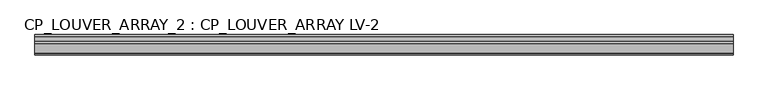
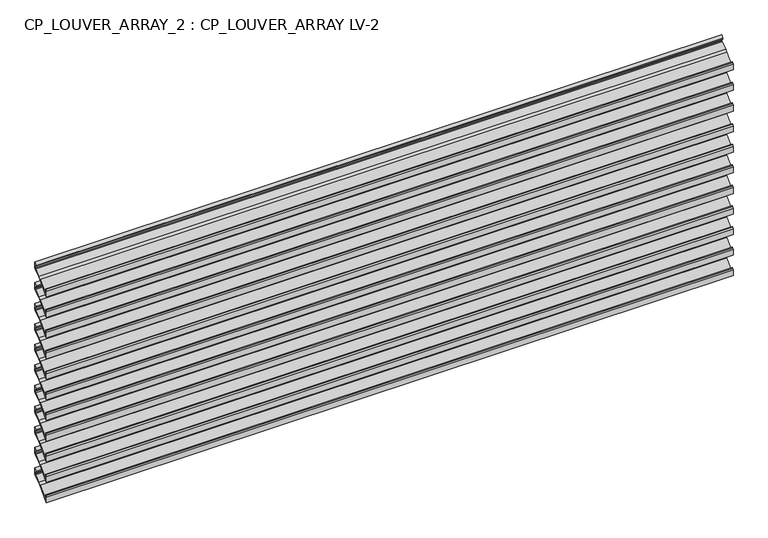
"""IFC4 building model written with IfcOpenShell, lengths in millimetres: plate geometry, CP_LOUVER_ARRAY_2 : CP_LOUVER_ARRAY LV-2."""

from ifc_helpers import new_model, si_unit, origin, place, context, project, spatial, faceted_brep, source, transform, mapped, element, save


def cp_louver_array_2_cp_louver_array_lv_2_f6b21533(model_context):
    return source(origin(), model_context, "Body", "Brep", [
        faceted_brep([(800.5016712, 96.3393096, 549.1190525), (800.5016712, 100.8480853, 552.0585014), (800.5016712, 114.5049525, 561.7157436), (800.5016712, 116.1796, 564.9509873), (800.5016712, 116.1796, 578.7749446), (800.5016712, 111.4806, 573.735884), (800.5016712, 111.4806, 571.5012746), (800.5016712, 114.6556, 574.9060452), (800.5016712, 114.6556, 564.9509873), (800.5016712, 113.6250477, 562.9600681), (800.5016712, 99.9681804, 553.3028259), (800.5016712, 94.5749864, 549.4506311), (800.5016712, 71.3542993, 524.6000536), (800.5016712, 71.374, 534.5844296), (800.5016712, 73.025, 537.0326554), (800.5016712, 73.025, 538.925084), (800.5016712, 71.4632993, 537.7754075), (800.5016712, 69.85, 534.5844296), (800.5016712, 69.85, 520.7127457), (-800.5016712, 96.3393096, 549.1190525), (-800.5016712, 69.85, 520.7127457), (-800.5016712, 69.85, 534.5844296), (-800.5016712, 71.4632993, 537.7754075), (-800.5016712, 73.025, 538.925084), (-800.5016712, 73.025, 537.0326554), (-800.5016712, 71.374, 534.5844296), (-800.5016712, 71.374, 524.5816451), (-800.5016712, 94.5749864, 549.4506311), (-800.5016712, 99.9681804, 553.3028259), (-800.5016712, 113.6250477, 562.9600681), (-800.5016712, 114.6556, 564.9509873), (-800.5016712, 114.6556, 574.9060452), (-800.5016712, 111.4806, 571.5012746), (-800.5016712, 111.4806, 573.735884), (-800.5016712, 116.1796, 578.7749446), (-800.5016712, 116.1796, 564.9509873), (-800.5016712, 114.5049525, 561.7157436), (-800.5016712, 100.8480853, 552.0585014)], [[[0, 1, 2, 3, 4, 5, 6, 7, 8, 9, 10, 11, 12, 13, 14, 15, 16, 17, 18]], [[19, 20, 21, 22, 23, 24, 25, 26, 27, 28, 29, 30, 31, 32, 33, 34, 35, 36, 37]], [[18, 20, 19, 0]], [[17, 21, 20, 18]], [[16, 22, 21, 17]], [[15, 23, 22, 16]], [[14, 24, 23, 15]], [[13, 25, 24, 14]], [[12, 26, 25, 13]], [[12, 11, 27, 26]], [[10, 28, 27, 11]], [[9, 29, 28, 10]], [[8, 30, 29, 9]], [[7, 31, 30, 8]], [[6, 32, 31, 7]], [[5, 33, 32, 6]], [[4, 34, 33, 5]], [[3, 35, 34, 4]], [[2, 36, 35, 3]], [[1, 37, 36, 2]], [[0, 19, 37, 1]]]),
        faceted_brep([(800.5016712, 96.3393096, 498.3177779), (800.5016712, 100.8480853, 501.2572268), (800.5016712, 114.5049525, 510.914469), (800.5016712, 116.1796, 514.1497128), (800.5016712, 116.1796, 527.97367), (800.5016712, 111.4806, 522.9346095), (800.5016712, 111.4806, 520.7), (800.5016712, 114.6556, 524.1047707), (800.5016712, 114.6556, 514.1497128), (800.5016712, 113.6250477, 512.1587935), (800.5016712, 99.9681804, 502.5015513), (800.5016712, 94.5749864, 498.6493565), (800.5016712, 71.3542993, 473.798779), (800.5016712, 71.374, 483.7831551), (800.5016712, 73.025, 486.2313808), (800.5016712, 73.025, 488.1238094), (800.5016712, 71.4632993, 486.9741329), (800.5016712, 69.85, 483.7831551), (800.5016712, 69.85, 469.9114711), (-800.5016712, 96.3393096, 498.3177779), (-800.5016712, 69.85, 469.9114711), (-800.5016712, 69.85, 483.7831551), (-800.5016712, 71.4632993, 486.9741329), (-800.5016712, 73.025, 488.1238094), (-800.5016712, 73.025, 486.2313808), (-800.5016712, 71.374, 483.7831551), (-800.5016712, 71.374, 473.7803705), (-800.5016712, 94.5749864, 498.6493565), (-800.5016712, 99.9681804, 502.5015513), (-800.5016712, 113.6250477, 512.1587935), (-800.5016712, 114.6556, 514.1497128), (-800.5016712, 114.6556, 524.1047707), (-800.5016712, 111.4806, 520.7), (-800.5016712, 111.4806, 522.9346095), (-800.5016712, 116.1796, 527.97367), (-800.5016712, 116.1796, 514.1497128), (-800.5016712, 114.5049525, 510.914469), (-800.5016712, 100.8480853, 501.2572268)], [[[0, 1, 2, 3, 4, 5, 6, 7, 8, 9, 10, 11, 12, 13, 14, 15, 16, 17, 18]], [[19, 20, 21, 22, 23, 24, 25, 26, 27, 28, 29, 30, 31, 32, 33, 34, 35, 36, 37]], [[18, 20, 19, 0]], [[17, 21, 20, 18]], [[16, 22, 21, 17]], [[15, 23, 22, 16]], [[14, 24, 23, 15]], [[13, 25, 24, 14]], [[12, 26, 25, 13]], [[12, 11, 27, 26]], [[10, 28, 27, 11]], [[9, 29, 28, 10]], [[8, 30, 29, 9]], [[7, 31, 30, 8]], [[6, 32, 31, 7]], [[5, 33, 32, 6]], [[4, 34, 33, 5]], [[3, 35, 34, 4]], [[2, 36, 35, 3]], [[1, 37, 36, 2]], [[0, 19, 37, 1]]]),
        faceted_brep([(800.5016712, 96.3393096, 447.5165033), (800.5016712, 100.8480853, 450.4559523), (800.5016712, 114.5049525, 460.1131944), (800.5016712, 116.1796, 463.3484382), (800.5016712, 116.1796, 477.1723955), (800.5016712, 111.4806, 472.1333349), (800.5016712, 111.4806, 469.8987254), (800.5016712, 114.6556, 473.3034961), (800.5016712, 114.6556, 463.3484382), (800.5016712, 113.6250477, 461.357519), (800.5016712, 99.9681804, 451.7002768), (800.5016712, 94.5749864, 447.8480819), (800.5016712, 71.3542993, 422.9975045), (800.5016712, 71.374, 432.9818805), (800.5016712, 73.025, 435.4301063), (800.5016712, 73.025, 437.3225348), (800.5016712, 71.4632993, 436.1728583), (800.5016712, 69.85, 432.9818805), (800.5016712, 69.85, 419.1101965), (-800.5016712, 96.3393096, 447.5165033), (-800.5016712, 69.85, 419.1101965), (-800.5016712, 69.85, 432.9818805), (-800.5016712, 71.4632993, 436.1728583), (-800.5016712, 73.025, 437.3225348), (-800.5016712, 73.025, 435.4301063), (-800.5016712, 71.374, 432.9818805), (-800.5016712, 71.374, 422.9790959), (-800.5016712, 94.5749864, 447.8480819), (-800.5016712, 99.9681804, 451.7002768), (-800.5016712, 113.6250477, 461.357519), (-800.5016712, 114.6556, 463.3484382), (-800.5016712, 114.6556, 473.3034961), (-800.5016712, 111.4806, 469.8987254), (-800.5016712, 111.4806, 472.1333349), (-800.5016712, 116.1796, 477.1723955), (-800.5016712, 116.1796, 463.3484382), (-800.5016712, 114.5049525, 460.1131944), (-800.5016712, 100.8480853, 450.4559523)], [[[0, 1, 2, 3, 4, 5, 6, 7, 8, 9, 10, 11, 12, 13, 14, 15, 16, 17, 18]], [[19, 20, 21, 22, 23, 24, 25, 26, 27, 28, 29, 30, 31, 32, 33, 34, 35, 36, 37]], [[18, 20, 19, 0]], [[17, 21, 20, 18]], [[16, 22, 21, 17]], [[15, 23, 22, 16]], [[14, 24, 23, 15]], [[13, 25, 24, 14]], [[12, 26, 25, 13]], [[12, 11, 27, 26]], [[10, 28, 27, 11]], [[9, 29, 28, 10]], [[8, 30, 29, 9]], [[7, 31, 30, 8]], [[6, 32, 31, 7]], [[5, 33, 32, 6]], [[4, 34, 33, 5]], [[3, 35, 34, 4]], [[2, 36, 35, 3]], [[1, 37, 36, 2]], [[0, 19, 37, 1]]]),
        faceted_brep([(800.5016712, 96.3393096, 396.7152288), (800.5016712, 100.8480853, 399.6546777), (800.5016712, 114.5049525, 409.3119199), (800.5016712, 116.1796, 412.5471636), (800.5016712, 116.1796, 426.3711209), (800.5016712, 111.4806, 421.3320603), (800.5016712, 111.4806, 419.0974509), (800.5016712, 114.6556, 422.5022215), (800.5016712, 114.6556, 412.5471636), (800.5016712, 113.6250477, 410.5562444), (800.5016712, 99.9681804, 400.8990022), (800.5016712, 94.5749864, 397.0468074), (800.5016712, 71.3542993, 372.1962299), (800.5016712, 71.374, 382.1806059), (800.5016712, 73.025, 384.6288317), (800.5016712, 73.025, 386.5212603), (800.5016712, 71.4632993, 385.3715838), (800.5016712, 69.85, 382.1806059), (800.5016712, 69.85, 368.308922), (-800.5016712, 96.3393096, 396.7152288), (-800.5016712, 69.85, 368.308922), (-800.5016712, 69.85, 382.1806059), (-800.5016712, 71.4632993, 385.3715838), (-800.5016712, 73.025, 386.5212603), (-800.5016712, 73.025, 384.6288317), (-800.5016712, 71.374, 382.1806059), (-800.5016712, 71.374, 372.1778214), (-800.5016712, 94.5749864, 397.0468074), (-800.5016712, 99.9681804, 400.8990022), (-800.5016712, 113.6250477, 410.5562444), (-800.5016712, 114.6556, 412.5471636), (-800.5016712, 114.6556, 422.5022215), (-800.5016712, 111.4806, 419.0974509), (-800.5016712, 111.4806, 421.3320603), (-800.5016712, 116.1796, 426.3711209), (-800.5016712, 116.1796, 412.5471636), (-800.5016712, 114.5049525, 409.3119199), (-800.5016712, 100.8480853, 399.6546777)], [[[0, 1, 2, 3, 4, 5, 6, 7, 8, 9, 10, 11, 12, 13, 14, 15, 16, 17, 18]], [[19, 20, 21, 22, 23, 24, 25, 26, 27, 28, 29, 30, 31, 32, 33, 34, 35, 36, 37]], [[18, 20, 19, 0]], [[17, 21, 20, 18]], [[16, 22, 21, 17]], [[15, 23, 22, 16]], [[14, 24, 23, 15]], [[13, 25, 24, 14]], [[12, 26, 25, 13]], [[12, 11, 27, 26]], [[10, 28, 27, 11]], [[9, 29, 28, 10]], [[8, 30, 29, 9]], [[7, 31, 30, 8]], [[6, 32, 31, 7]], [[5, 33, 32, 6]], [[4, 34, 33, 5]], [[3, 35, 34, 4]], [[2, 36, 35, 3]], [[1, 37, 36, 2]], [[0, 19, 37, 1]]]),
        faceted_brep([(800.5016712, 96.3393096, 345.9139542), (800.5016712, 100.8480853, 348.8534031), (800.5016712, 114.5049525, 358.5106453), (800.5016712, 116.1796, 361.7458891), (800.5016712, 116.1796, 375.5698463), (800.5016712, 111.4806, 370.5307858), (800.5016712, 111.4806, 368.2961763), (800.5016712, 114.6556, 371.7009469), (800.5016712, 114.6556, 361.7458891), (800.5016712, 113.6250477, 359.7549698), (800.5016712, 99.9681804, 350.0977276), (800.5016712, 94.5749864, 346.2455328), (800.5016712, 71.3542993, 321.3949553), (800.5016712, 71.374, 331.3793314), (800.5016712, 73.025, 333.8275571), (800.5016712, 73.025, 335.7199857), (800.5016712, 71.4632993, 334.5703092), (800.5016712, 69.85, 331.3793314), (800.5016712, 69.85, 317.5076474), (-800.5016712, 96.3393096, 345.9139542), (-800.5016712, 69.85, 317.5076474), (-800.5016712, 69.85, 331.3793314), (-800.5016712, 71.4632993, 334.5703092), (-800.5016712, 73.025, 335.7199857), (-800.5016712, 73.025, 333.8275571), (-800.5016712, 71.374, 331.3793314), (-800.5016712, 71.374, 321.3765468), (-800.5016712, 94.5749864, 346.2455328), (-800.5016712, 99.9681804, 350.0977276), (-800.5016712, 113.6250477, 359.7549698), (-800.5016712, 114.6556, 361.7458891), (-800.5016712, 114.6556, 371.7009469), (-800.5016712, 111.4806, 368.2961763), (-800.5016712, 111.4806, 370.5307858), (-800.5016712, 116.1796, 375.5698463), (-800.5016712, 116.1796, 361.7458891), (-800.5016712, 114.5049525, 358.5106453), (-800.5016712, 100.8480853, 348.8534031)], [[[0, 1, 2, 3, 4, 5, 6, 7, 8, 9, 10, 11, 12, 13, 14, 15, 16, 17, 18]], [[19, 20, 21, 22, 23, 24, 25, 26, 27, 28, 29, 30, 31, 32, 33, 34, 35, 36, 37]], [[18, 20, 19, 0]], [[17, 21, 20, 18]], [[16, 22, 21, 17]], [[15, 23, 22, 16]], [[14, 24, 23, 15]], [[13, 25, 24, 14]], [[12, 26, 25, 13]], [[12, 11, 27, 26]], [[10, 28, 27, 11]], [[9, 29, 28, 10]], [[8, 30, 29, 9]], [[7, 31, 30, 8]], [[6, 32, 31, 7]], [[5, 33, 32, 6]], [[4, 34, 33, 5]], [[3, 35, 34, 4]], [[2, 36, 35, 3]], [[1, 37, 36, 2]], [[0, 19, 37, 1]]]),
        faceted_brep([(800.5016712, 96.3393096, 295.1126796), (800.5016712, 100.8480853, 298.0521286), (800.5016712, 114.5049525, 307.7093707), (800.5016712, 116.1796, 310.9446145), (800.5016712, 116.1796, 324.7685718), (800.5016712, 111.4806, 319.7295112), (800.5016712, 111.4806, 317.4949017), (800.5016712, 114.6556, 320.8996724), (800.5016712, 114.6556, 310.9446145), (800.5016712, 113.6250477, 308.9536953), (800.5016712, 99.9681804, 299.2964531), (800.5016712, 94.5749864, 295.4442582), (800.5016712, 71.3542993, 270.5936808), (800.5016712, 71.374, 280.5780568), (800.5016712, 73.025, 283.0262826), (800.5016712, 73.025, 284.9187111), (800.5016712, 71.4632993, 283.7690346), (800.5016712, 69.85, 280.5780568), (800.5016712, 69.85, 266.7063728), (-800.5016712, 96.3393096, 295.1126796), (-800.5016712, 69.85, 266.7063728), (-800.5016712, 69.85, 280.5780568), (-800.5016712, 71.4632993, 283.7690346), (-800.5016712, 73.025, 284.9187111), (-800.5016712, 73.025, 283.0262826), (-800.5016712, 71.374, 280.5780568), (-800.5016712, 71.374, 270.5752722), (-800.5016712, 94.5749864, 295.4442582), (-800.5016712, 99.9681804, 299.2964531), (-800.5016712, 113.6250477, 308.9536953), (-800.5016712, 114.6556, 310.9446145), (-800.5016712, 114.6556, 320.8996724), (-800.5016712, 111.4806, 317.4949017), (-800.5016712, 111.4806, 319.7295112), (-800.5016712, 116.1796, 324.7685718), (-800.5016712, 116.1796, 310.9446145), (-800.5016712, 114.5049525, 307.7093707), (-800.5016712, 100.8480853, 298.0521286)], [[[0, 1, 2, 3, 4, 5, 6, 7, 8, 9, 10, 11, 12, 13, 14, 15, 16, 17, 18]], [[19, 20, 21, 22, 23, 24, 25, 26, 27, 28, 29, 30, 31, 32, 33, 34, 35, 36, 37]], [[18, 20, 19, 0]], [[17, 21, 20, 18]], [[16, 22, 21, 17]], [[15, 23, 22, 16]], [[14, 24, 23, 15]], [[13, 25, 24, 14]], [[12, 26, 25, 13]], [[12, 11, 27, 26]], [[10, 28, 27, 11]], [[9, 29, 28, 10]], [[8, 30, 29, 9]], [[7, 31, 30, 8]], [[6, 32, 31, 7]], [[5, 33, 32, 6]], [[4, 34, 33, 5]], [[3, 35, 34, 4]], [[2, 36, 35, 3]], [[1, 37, 36, 2]], [[0, 19, 37, 1]]]),
        faceted_brep([(800.5016712, 96.3393096, 244.3114051), (800.5016712, 100.8480853, 247.250854), (800.5016712, 114.5049525, 256.9080962), (800.5016712, 116.1796, 260.1433399), (800.5016712, 116.1796, 273.9672972), (800.5016712, 111.4806, 268.9282366), (800.5016712, 111.4806, 266.6936272), (800.5016712, 114.6556, 270.0983978), (800.5016712, 114.6556, 260.1433399), (800.5016712, 113.6250477, 258.1524207), (800.5016712, 99.9681804, 248.4951785), (800.5016712, 94.5749864, 244.6429837), (800.5016712, 71.3542993, 219.7924062), (800.5016712, 71.374, 229.7767822), (800.5016712, 73.025, 232.225008), (800.5016712, 73.025, 234.1174365), (800.5016712, 71.4632993, 232.9677601), (800.5016712, 69.85, 229.7767822), (800.5016712, 69.85, 215.9050983), (-800.5016712, 96.3393096, 244.3114051), (-800.5016712, 69.85, 215.9050983), (-800.5016712, 69.85, 229.7767822), (-800.5016712, 71.4632993, 232.9677601), (-800.5016712, 73.025, 234.1174365), (-800.5016712, 73.025, 232.225008), (-800.5016712, 71.374, 229.7767822), (-800.5016712, 71.374, 219.7739977), (-800.5016712, 94.5749864, 244.6429837), (-800.5016712, 99.9681804, 248.4951785), (-800.5016712, 113.6250477, 258.1524207), (-800.5016712, 114.6556, 260.1433399), (-800.5016712, 114.6556, 270.0983978), (-800.5016712, 111.4806, 266.6936272), (-800.5016712, 111.4806, 268.9282366), (-800.5016712, 116.1796, 273.9672972), (-800.5016712, 116.1796, 260.1433399), (-800.5016712, 114.5049525, 256.9080962), (-800.5016712, 100.8480853, 247.250854)], [[[0, 1, 2, 3, 4, 5, 6, 7, 8, 9, 10, 11, 12, 13, 14, 15, 16, 17, 18]], [[19, 20, 21, 22, 23, 24, 25, 26, 27, 28, 29, 30, 31, 32, 33, 34, 35, 36, 37]], [[18, 20, 19, 0]], [[17, 21, 20, 18]], [[16, 22, 21, 17]], [[15, 23, 22, 16]], [[14, 24, 23, 15]], [[13, 25, 24, 14]], [[12, 26, 25, 13]], [[12, 11, 27, 26]], [[10, 28, 27, 11]], [[9, 29, 28, 10]], [[8, 30, 29, 9]], [[7, 31, 30, 8]], [[6, 32, 31, 7]], [[5, 33, 32, 6]], [[4, 34, 33, 5]], [[3, 35, 34, 4]], [[2, 36, 35, 3]], [[1, 37, 36, 2]], [[0, 19, 37, 1]]]),
        faceted_brep([(800.5016712, 96.3393096, 193.5101305), (800.5016712, 100.8480853, 196.4495794), (800.5016712, 114.5049525, 206.1068216), (800.5016712, 116.1796, 209.3420654), (800.5016712, 116.1796, 223.1660226), (800.5016712, 111.4806, 218.1269621), (800.5016712, 111.4806, 215.8923526), (800.5016712, 114.6556, 219.2971232), (800.5016712, 114.6556, 209.3420654), (800.5016712, 113.6250477, 207.3511461), (800.5016712, 99.9681804, 197.6939039), (800.5016712, 94.5749864, 193.8417091), (800.5016712, 71.3542993, 168.9911316), (800.5016712, 71.374, 178.9755076), (800.5016712, 73.025, 181.4237334), (800.5016712, 73.025, 183.316162), (800.5016712, 71.4632993, 182.1664855), (800.5016712, 69.85, 178.9755076), (800.5016712, 69.85, 165.1038237), (-800.5016712, 96.3393096, 193.5101305), (-800.5016712, 69.85, 165.1038237), (-800.5016712, 69.85, 178.9755076), (-800.5016712, 71.4632993, 182.1664855), (-800.5016712, 73.025, 183.316162), (-800.5016712, 73.025, 181.4237334), (-800.5016712, 71.374, 178.9755076), (-800.5016712, 71.374, 168.9727231), (-800.5016712, 94.5749864, 193.8417091), (-800.5016712, 99.9681804, 197.6939039), (-800.5016712, 113.6250477, 207.3511461), (-800.5016712, 114.6556, 209.3420654), (-800.5016712, 114.6556, 219.2971232), (-800.5016712, 111.4806, 215.8923526), (-800.5016712, 111.4806, 218.1269621), (-800.5016712, 116.1796, 223.1660226), (-800.5016712, 116.1796, 209.3420654), (-800.5016712, 114.5049525, 206.1068216), (-800.5016712, 100.8480853, 196.4495794)], [[[0, 1, 2, 3, 4, 5, 6, 7, 8, 9, 10, 11, 12, 13, 14, 15, 16, 17, 18]], [[19, 20, 21, 22, 23, 24, 25, 26, 27, 28, 29, 30, 31, 32, 33, 34, 35, 36, 37]], [[18, 20, 19, 0]], [[17, 21, 20, 18]], [[16, 22, 21, 17]], [[15, 23, 22, 16]], [[14, 24, 23, 15]], [[13, 25, 24, 14]], [[12, 26, 25, 13]], [[12, 11, 27, 26]], [[10, 28, 27, 11]], [[9, 29, 28, 10]], [[8, 30, 29, 9]], [[7, 31, 30, 8]], [[6, 32, 31, 7]], [[5, 33, 32, 6]], [[4, 34, 33, 5]], [[3, 35, 34, 4]], [[2, 36, 35, 3]], [[1, 37, 36, 2]], [[0, 19, 37, 1]]]),
        faceted_brep([(800.5016712, 96.3393096, 142.7088559), (800.5016712, 100.8480853, 145.6483048), (800.5016712, 114.5049525, 155.305547), (800.5016712, 116.1796, 158.5407908), (800.5016712, 116.1796, 172.3647481), (800.5016712, 111.4806, 167.3256875), (800.5016712, 111.4806, 165.091078), (800.5016712, 114.6556, 168.4958487), (800.5016712, 114.6556, 158.5407908), (800.5016712, 113.6250477, 156.5498716), (800.5016712, 99.9681804, 146.8926294), (800.5016712, 94.5749864, 143.0404345), (800.5016712, 71.3542993, 118.1898571), (800.5016712, 71.374, 128.1742331), (800.5016712, 73.025, 130.6224589), (800.5016712, 73.025, 132.5148874), (800.5016712, 71.4632993, 131.3652109), (800.5016712, 69.85, 128.1742331), (800.5016712, 69.85, 114.3025491), (-800.5016712, 96.3393096, 142.7088559), (-800.5016712, 69.85, 114.3025491), (-800.5016712, 69.85, 128.1742331), (-800.5016712, 71.4632993, 131.3652109), (-800.5016712, 73.025, 132.5148874), (-800.5016712, 73.025, 130.6224589), (-800.5016712, 71.374, 128.1742331), (-800.5016712, 71.374, 118.1714485), (-800.5016712, 94.5749864, 143.0404345), (-800.5016712, 99.9681804, 146.8926294), (-800.5016712, 113.6250477, 156.5498716), (-800.5016712, 114.6556, 158.5407908), (-800.5016712, 114.6556, 168.4958487), (-800.5016712, 111.4806, 165.091078), (-800.5016712, 111.4806, 167.3256875), (-800.5016712, 116.1796, 172.3647481), (-800.5016712, 116.1796, 158.5407908), (-800.5016712, 114.5049525, 155.305547), (-800.5016712, 100.8480853, 145.6483048)], [[[0, 1, 2, 3, 4, 5, 6, 7, 8, 9, 10, 11, 12, 13, 14, 15, 16, 17, 18]], [[19, 20, 21, 22, 23, 24, 25, 26, 27, 28, 29, 30, 31, 32, 33, 34, 35, 36, 37]], [[18, 20, 19, 0]], [[17, 21, 20, 18]], [[16, 22, 21, 17]], [[15, 23, 22, 16]], [[14, 24, 23, 15]], [[13, 25, 24, 14]], [[12, 26, 25, 13]], [[12, 11, 27, 26]], [[10, 28, 27, 11]], [[9, 29, 28, 10]], [[8, 30, 29, 9]], [[7, 31, 30, 8]], [[6, 32, 31, 7]], [[5, 33, 32, 6]], [[4, 34, 33, 5]], [[3, 35, 34, 4]], [[2, 36, 35, 3]], [[1, 37, 36, 2]], [[0, 19, 37, 1]]]),
        faceted_brep([(800.5016712, 96.3393096, 91.9075814), (800.5016712, 100.8480853, 94.8470303), (800.5016712, 114.5049525, 104.5042725), (800.5016712, 116.1796, 107.7395162), (800.5016712, 116.1796, 121.5634735), (800.5016712, 111.4806, 116.5244129), (800.5016712, 111.4806, 114.2898035), (800.5016712, 114.6556, 117.6945741), (800.5016712, 114.6556, 107.7395162), (800.5016712, 113.6250477, 105.748597), (800.5016712, 99.9681804, 96.0913548), (800.5016712, 94.5749864, 92.23916), (800.5016712, 71.3542993, 67.3885825), (800.5016712, 71.374, 77.3729585), (800.5016712, 73.025, 79.8211843), (800.5016712, 73.025, 81.7136128), (800.5016712, 71.4632993, 80.5639364), (800.5016712, 69.85, 77.3729585), (800.5016712, 69.85, 63.5012746), (-800.5016712, 96.3393096, 91.9075814), (-800.5016712, 69.85, 63.5012746), (-800.5016712, 69.85, 77.3729585), (-800.5016712, 71.4632993, 80.5639364), (-800.5016712, 73.025, 81.7136128), (-800.5016712, 73.025, 79.8211843), (-800.5016712, 71.374, 77.3729585), (-800.5016712, 71.374, 67.370174), (-800.5016712, 94.5749864, 92.23916), (-800.5016712, 99.9681804, 96.0913548), (-800.5016712, 113.6250477, 105.748597), (-800.5016712, 114.6556, 107.7395162), (-800.5016712, 114.6556, 117.6945741), (-800.5016712, 111.4806, 114.2898035), (-800.5016712, 111.4806, 116.5244129), (-800.5016712, 116.1796, 121.5634735), (-800.5016712, 116.1796, 107.7395162), (-800.5016712, 114.5049525, 104.5042725), (-800.5016712, 100.8480853, 94.8470303)], [[[0, 1, 2, 3, 4, 5, 6, 7, 8, 9, 10, 11, 12, 13, 14, 15, 16, 17, 18]], [[19, 20, 21, 22, 23, 24, 25, 26, 27, 28, 29, 30, 31, 32, 33, 34, 35, 36, 37]], [[18, 20, 19, 0]], [[17, 21, 20, 18]], [[16, 22, 21, 17]], [[15, 23, 22, 16]], [[14, 24, 23, 15]], [[13, 25, 24, 14]], [[12, 26, 25, 13]], [[12, 11, 27, 26]], [[10, 28, 27, 11]], [[9, 29, 28, 10]], [[8, 30, 29, 9]], [[7, 31, 30, 8]], [[6, 32, 31, 7]], [[5, 33, 32, 6]], [[4, 34, 33, 5]], [[3, 35, 34, 4]], [[2, 36, 35, 3]], [[1, 37, 36, 2]], [[0, 19, 37, 1]]]),
        faceted_brep([(800.5016712, 96.3393096, 41.1063068), (800.5016712, 100.8480853, 44.0457557), (800.5016712, 114.5049525, 53.7029979), (800.5016712, 116.1796, 56.9382417), (800.5016712, 116.1796, 70.7621989), (800.5016712, 111.4806, 65.7231384), (800.5016712, 111.4806, 63.4885289), (800.5016712, 114.6556, 66.8932995), (800.5016712, 114.6556, 56.9382417), (800.5016712, 113.6250477, 54.9473224), (800.5016712, 99.9681804, 45.2900802), (800.5016712, 94.5749864, 41.4378854), (800.5016712, 71.3542993, 16.5873079), (800.5016712, 71.374, 26.5716839), (800.5016712, 73.025, 29.0199097), (800.5016712, 73.025, 30.9123383), (800.5016712, 71.4632993, 29.7626618), (800.5016712, 69.85, 26.5716839), (800.5016712, 69.85, 12.7), (-800.5016712, 96.3393096, 41.1063068), (-800.5016712, 69.85, 12.7), (-800.5016712, 69.85, 26.5716839), (-800.5016712, 71.4632993, 29.7626618), (-800.5016712, 73.025, 30.9123383), (-800.5016712, 73.025, 29.0199097), (-800.5016712, 71.374, 26.5716839), (-800.5016712, 71.374, 16.5688994), (-800.5016712, 94.5749864, 41.4378854), (-800.5016712, 99.9681804, 45.2900802), (-800.5016712, 113.6250477, 54.9473224), (-800.5016712, 114.6556, 56.9382417), (-800.5016712, 114.6556, 66.8932995), (-800.5016712, 111.4806, 63.4885289), (-800.5016712, 111.4806, 65.7231384), (-800.5016712, 116.1796, 70.7621989), (-800.5016712, 116.1796, 56.9382417), (-800.5016712, 114.5049525, 53.7029979), (-800.5016712, 100.8480853, 44.0457557)], [[[0, 1, 2, 3, 4, 5, 6, 7, 8, 9, 10, 11, 12, 13, 14, 15, 16, 17, 18]], [[19, 20, 21, 22, 23, 24, 25, 26, 27, 28, 29, 30, 31, 32, 33, 34, 35, 36, 37]], [[18, 20, 19, 0]], [[17, 21, 20, 18]], [[16, 22, 21, 17]], [[15, 23, 22, 16]], [[14, 24, 23, 15]], [[13, 25, 24, 14]], [[12, 26, 25, 13]], [[12, 11, 27, 26]], [[10, 28, 27, 11]], [[9, 29, 28, 10]], [[8, 30, 29, 9]], [[7, 31, 30, 8]], [[6, 32, 31, 7]], [[5, 33, 32, 6]], [[4, 34, 33, 5]], [[3, 35, 34, 4]], [[2, 36, 35, 3]], [[1, 37, 36, 2]], [[0, 19, 37, 1]]]),
    ])


if __name__ == "__main__":
    model = new_model("IFC4")
    model_context = context("Model", 3, world=origin())
    ifc_project = project(units=[si_unit("LENGTHUNIT", "METRE", prefix="MILLI")], contexts=[model_context])
    site = spatial("IfcSite", under=ifc_project)
    building = spatial("IfcBuilding", under=site)
    placement = place(None, origin())
    cp_louver_array_2_cp_louver_array_lv_2_shape = cp_louver_array_2_cp_louver_array_lv_2_f6b21533(model_context)
    element("IfcPlate", 1, ObjectType="CP_LOUVER_ARRAY_2 : CP_LOUVER_ARRAY LV-2", at=placement, inside=building, context=model_context, shape_type="MappedRepresentation", body=[
        mapped(cp_louver_array_2_cp_louver_array_lv_2_shape, transform((0.0, 0.0, 0.0), x_axis=(1.0, 0.0, 0.0), y_axis=(0.0, 1.0, 0.0), z_axis=(0.0, 0.0, 1.0))),
    ])
    save(model, "model.ifc")
